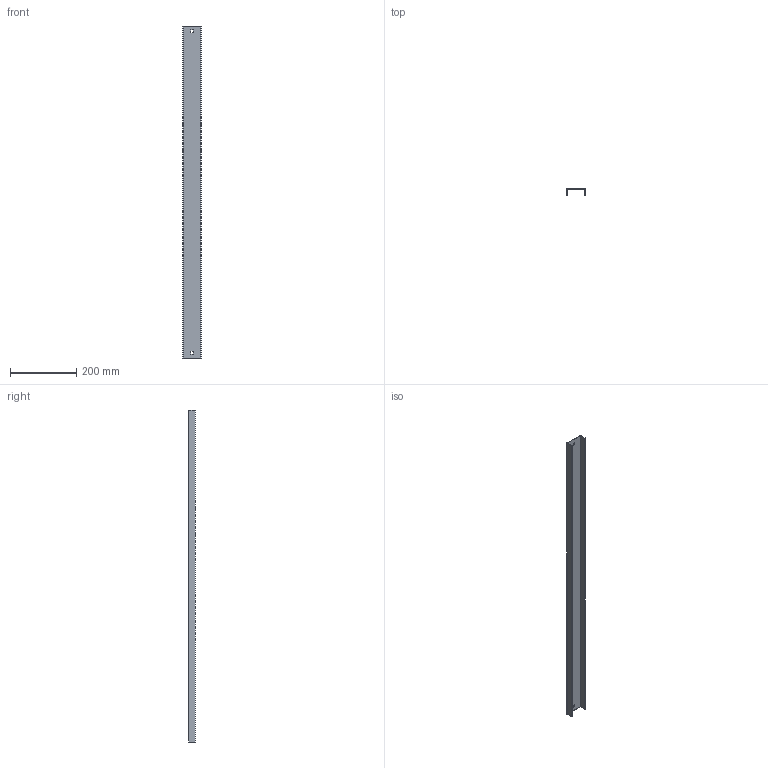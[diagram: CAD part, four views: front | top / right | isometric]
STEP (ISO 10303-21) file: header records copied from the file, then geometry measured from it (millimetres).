
FILE_DESCRIPTION (( 'STEP AP214' ), '1' );
FILE_NAME ('05G1R050.step', '2025-02-21T13:06:32', ( '' ), ( '' ), 'SwSTEP 2.0', 'SolidWorks 2023', '' );
FILE_SCHEMA (( 'AUTOMOTIVE_DESIGN' ));
Length unit declared in the file: millimetre
Products named in the file (1): 05G1R050
Bounding box: 57 x 20 x 1000 mm (x, y, z)
Volume: 140824.5 mm3; surface area: 191141 mm2
Topology: 1 solids, 1 shells, 18 faces, 48 edges, 32 vertices
Faces by surface type: plane 18
Entity records: 583 total; most frequent: CARTESIAN_POINT 99, ORIENTED_EDGE 96, DIRECTION 86, LINE 48, VECTOR 48, EDGE_CURVE 48, VERTEX_POINT 32, EDGE_LOOP 22
